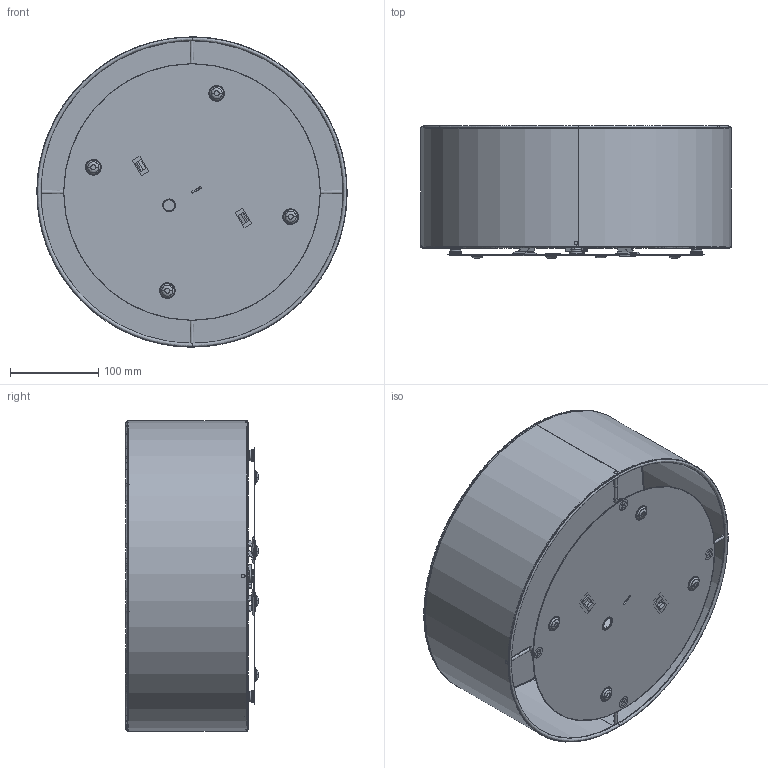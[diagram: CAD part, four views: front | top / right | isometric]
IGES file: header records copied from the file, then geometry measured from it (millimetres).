
Start section: SolidWorks IGES file using analytic representation for surfaces
Global section: file name: E:\....SOLID WORKS\...BORYS\KLOSZE KLIK KLIK\KLOSZE\z³o¿enia\KLOSZ 350 zlozenie.IGS; native system: SolidWorks 2016; preprocessor: SolidWorks 2016; author: DELL; date: 170412.111737; units: millimetre
Bounding box: 350.96 x 149.3 x 350.96 mm (x, y, z)
Surface area: 691588.5 mm2 (no closed solid volume)
Topology: 0 solids, 0 shells, 779 faces, 8930 edges, 8904 vertices
Faces by surface type: bspline 454, revolution 325
